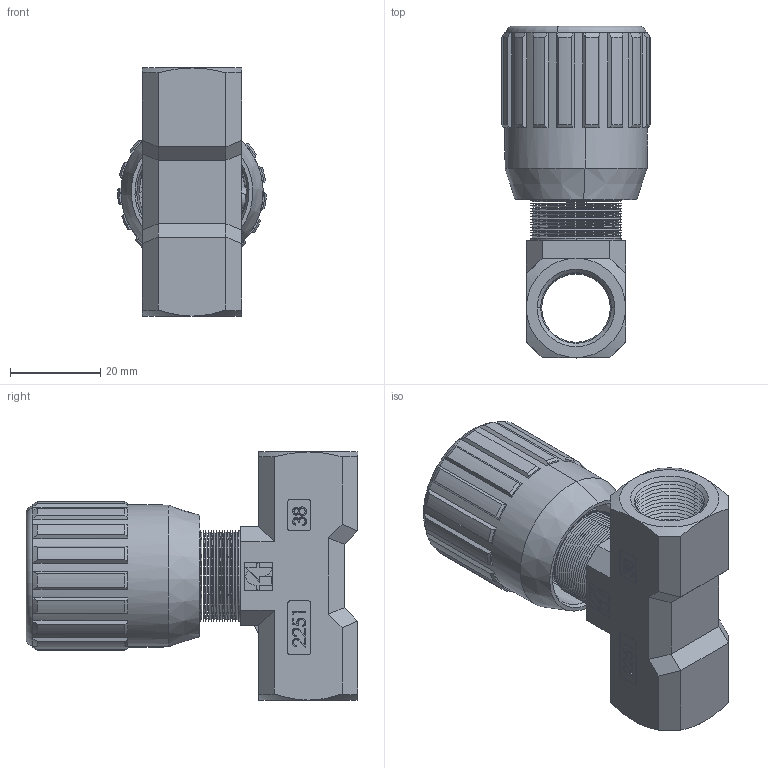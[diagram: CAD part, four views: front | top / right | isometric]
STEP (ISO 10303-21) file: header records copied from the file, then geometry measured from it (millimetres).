
FILE_DESCRIPTION (( 'STEP AP214' ), '1' );
FILE_NAME ('FT2251-2-38.STEP', '2015-04-15T19:46:29', ( '' ), ( '' ), 'SwSTEP 2.0', 'SolidWorks 2014', '' );
FILE_SCHEMA (( 'AUTOMOTIVE_DESIGN' ));
Length unit declared in the file: millimetre
Products named in the file (1): FT2251-2-38
Bounding box: 32.98 x 73.5 x 55 mm (x, y, z)
Surface area: 15175.3 mm2 (no closed solid volume)
Topology: 0 solids, 40 shells, 607 faces, 1941 edges, 1296 vertices
Faces by surface type: plane 313, cone 174, cylinder 66, bspline 52, torus 2
Entity records: 31397 total; most frequent: CARTESIAN_POINT 8144, ORIENTED_EDGE 3279, DIRECTION 3261, EDGE_CURVE 1941, VERTEX_POINT 1296, LINE 1247, VECTOR 1247, AXIS2_PLACEMENT_3D 1007
